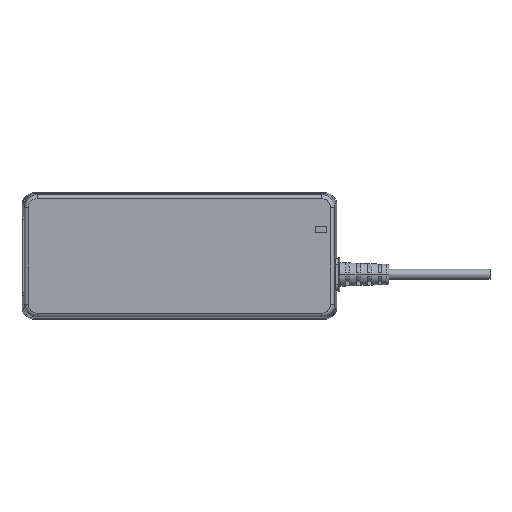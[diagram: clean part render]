
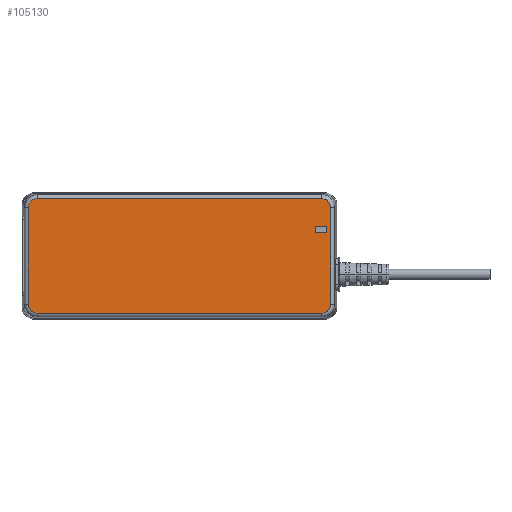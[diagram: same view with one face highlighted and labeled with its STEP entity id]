
A CAD part, top view. The second image highlights one B-rep face of the part: STEP entity #105130.
In plain terms, the highlighted planar face has unit normal (0, 0, 1).
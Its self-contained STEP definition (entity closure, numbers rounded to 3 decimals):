
#100300=CARTESIAN_POINT('',(79.691,91.765,
34.3));
#100310=DIRECTION('',(0.,-1.,0.));
#100320=VECTOR('',#100310,1.);
#100330=LINE('',#100300,#100320);
#100340=CARTESIAN_POINT('',(79.691,91.765,
34.3));
#100350=VERTEX_POINT('',#100340);
#100360=CARTESIAN_POINT('',(79.691,53.452,
34.3));
#100370=VERTEX_POINT('',#100360);
#100380=EDGE_CURVE('',#100350,#100370,#100330,.T.);
#101570=CARTESIAN_POINT('',(76.196,49.956,
34.3));
#101580=VERTEX_POINT('',#101570);
#101610=CARTESIAN_POINT('',(76.196,49.956,
34.3));
#101620=CARTESIAN_POINT('',(76.424,49.956,
34.3));
#101630=CARTESIAN_POINT('',(76.877,50.008,
34.3));
#101640=CARTESIAN_POINT('',(77.523,50.225,
34.3));
#101650=CARTESIAN_POINT('',(78.117,50.562,
34.3));
#101660=CARTESIAN_POINT('',(78.644,51.003,34.3));
#101670=CARTESIAN_POINT('',(79.085,51.53,
34.3));
#101680=CARTESIAN_POINT('',(79.423,52.125,
34.3));
#101690=CARTESIAN_POINT('',(79.639,52.771,
34.3));
#101700=CARTESIAN_POINT('',(79.691,53.223,
34.3));
#101710=CARTESIAN_POINT('',(79.691,53.452,
34.3));
#101720=B_SPLINE_CURVE_WITH_KNOTS('',3,(#101610,#101620,#101630,#101640,
#101650,#101660,#101670,#101680,#101690,#101700,#101710),.UNSPECIFIED.,
.F.,.F.,(4,1,1,1,1,1,1,1,4),(0.,0.125,
0.25,0.375,0.5,0.625,
0.75,0.875,1.),.UNSPECIFIED.);
#101730=EDGE_CURVE('',#101580,#100370,#101720,.T.);
#103080=CARTESIAN_POINT('',(-36.538,49.956,
34.3));
#103090=VERTEX_POINT('',#103080);
#103120=CARTESIAN_POINT('',(76.196,49.956,
34.3));
#103130=DIRECTION('',(-1.,0.,0.));
#103140=VECTOR('',#103130,1.);
#103150=LINE('',#103120,#103140);
#103160=EDGE_CURVE('',#101580,#103090,#103150,.T.);
#104080=CARTESIAN_POINT('',(-40.033,53.452,
34.3));
#104090=VERTEX_POINT('',#104080);
#104120=CARTESIAN_POINT('',(-40.033,53.452,
34.3));
#104130=CARTESIAN_POINT('',(-40.033,53.223,
34.3));
#104140=CARTESIAN_POINT('',(-39.981,52.771,
34.3));
#104150=CARTESIAN_POINT('',(-39.765,52.125,
34.3));
#104160=CARTESIAN_POINT('',(-39.427,51.53,
34.3));
#104170=CARTESIAN_POINT('',(-38.986,51.003,34.3));
#104180=CARTESIAN_POINT('',(-38.46,50.562,
34.3));
#104190=CARTESIAN_POINT('',(-37.865,50.225,
34.3));
#104200=CARTESIAN_POINT('',(-37.219,50.008,
34.3));
#104210=CARTESIAN_POINT('',(-36.766,49.956,
34.3));
#104220=CARTESIAN_POINT('',(-36.538,49.956,
34.3));
#104230=B_SPLINE_CURVE_WITH_KNOTS('',3,(#104120,#104130,#104140,#104150,
#104160,#104170,#104180,#104190,#104200,#104210,#104220),.UNSPECIFIED.,
.F.,.F.,(4,1,1,1,1,1,1,1,4),(0.,0.125,
0.25,0.375,0.5,0.625,
0.75,0.875,1.),.UNSPECIFIED.);
#104240=EDGE_CURVE('',#104090,#103090,#104230,.T.);
#104290=CARTESIAN_POINT('',(-40.271,49.718,
34.3));
#104300=DIRECTION('',(0.,0.,1.));
#104310=DIRECTION('',(1.,0.,0.));
#104320=AXIS2_PLACEMENT_3D('',#104290,#104300,#104310);
#104330=PLANE('',#104320);
#104340=CARTESIAN_POINT('',(-40.033,53.452,
34.3));
#104350=DIRECTION('',(0.,1.,0.));
#104360=VECTOR('',#104350,1.);
#104370=LINE('',#104340,#104360);
#104380=CARTESIAN_POINT('',(-40.038,91.76,
34.3));
#104390=VERTEX_POINT('',#104380);
#104400=EDGE_CURVE('',#104090,#104390,#104370,.T.);
#104410=ORIENTED_EDGE('',*,*,#104400,.F.);
#104420=CARTESIAN_POINT('',(-36.529,91.756,
34.3));
#104430=DIRECTION('',(0.,0.,1.));
#104440=DIRECTION('',(-0.001,1.,0.));
#104450=AXIS2_PLACEMENT_3D('',#104420,#104430,#104440);
#104460=CIRCLE('',#104450,3.508);
#104470=CARTESIAN_POINT('',(-36.531,95.26,
34.3));
#104480=VERTEX_POINT('',#104470);
#104490=EDGE_CURVE('',#104480,#104390,#104460,.T.);
#104500=ORIENTED_EDGE('',*,*,#104490,.T.);
#104510=CARTESIAN_POINT('',(-36.529,95.26,
34.3));
#104520=DIRECTION('',(1.,0.,0.));
#104530=VECTOR('',#104520,1.);
#104540=LINE('',#104510,#104530);
#104550=CARTESIAN_POINT('',(76.196,95.26,
34.3));
#104560=VERTEX_POINT('',#104550);
#104570=EDGE_CURVE('',#104480,#104560,#104540,.T.);
#104580=ORIENTED_EDGE('',*,*,#104570,.F.);
#104590=CARTESIAN_POINT('',(79.691,91.765,
34.3));
#104600=CARTESIAN_POINT('',(79.691,91.993,
34.3));
#104610=CARTESIAN_POINT('',(79.639,92.446,
34.3));
#104620=CARTESIAN_POINT('',(79.423,93.091,
34.3));
#104630=CARTESIAN_POINT('',(79.085,93.686,
34.3));
#104640=CARTESIAN_POINT('',(78.644,94.213,
34.3));
#104650=CARTESIAN_POINT('',(78.117,94.654,
34.3));
#104660=CARTESIAN_POINT('',(77.523,94.992,
34.3));
#104670=CARTESIAN_POINT('',(76.877,95.208,
34.3));
#104680=CARTESIAN_POINT('',(76.424,95.26,
34.3));
#104690=CARTESIAN_POINT('',(76.196,95.26,
34.3));
#104700=B_SPLINE_CURVE_WITH_KNOTS('',3,(#104590,#104600,#104610,#104620,
#104630,#104640,#104650,#104660,#104670,#104680,#104690),.UNSPECIFIED.,
.F.,.F.,(4,1,1,1,1,1,1,1,4),(0.,0.125,
0.25,0.375,0.5,0.625,
0.75,0.875,1.),.UNSPECIFIED.);
#104710=EDGE_CURVE('',#100350,#104560,#104700,.T.);
#104720=ORIENTED_EDGE('',*,*,#104710,.T.);
#104730=ORIENTED_EDGE('',*,*,#100380,.F.);
#104740=ORIENTED_EDGE('',*,*,#101730,.T.);
#104750=ORIENTED_EDGE('',*,*,#103160,.F.);
#104760=ORIENTED_EDGE('',*,*,#104240,.T.);
#104770=EDGE_LOOP('',(#104760,#104750,#104740,#104730,#104720,#104580,
#104500,#104410));
#104780=FACE_OUTER_BOUND('',#104770,.T.);
#104790=CARTESIAN_POINT('',(78.164,81.866,
34.3));
#104800=DIRECTION('',(0.,1.,0.));
#104810=VECTOR('',#104800,1.);
#104820=LINE('',#104790,#104810);
#104830=CARTESIAN_POINT('',(78.164,81.866,
34.3));
#104840=VERTEX_POINT('',#104830);
#104850=CARTESIAN_POINT('',(78.164,84.366,
34.3));
#104860=VERTEX_POINT('',#104850);
#104870=EDGE_CURVE('',#104840,#104860,#104820,.T.);
#104880=ORIENTED_EDGE('',*,*,#104870,.F.);
#104890=CARTESIAN_POINT('',(78.164,84.366,
34.3));
#104900=DIRECTION('',(-1.,0.,0.));
#104910=VECTOR('',#104900,1.);
#104920=LINE('',#104890,#104910);
#104930=CARTESIAN_POINT('',(73.514,84.366,
34.3));
#104940=VERTEX_POINT('',#104930);
#104950=EDGE_CURVE('',#104860,#104940,#104920,.T.);
#104960=ORIENTED_EDGE('',*,*,#104950,.F.);
#104970=CARTESIAN_POINT('',(73.514,84.366,
34.3));
#104980=DIRECTION('',(0.,-1.,0.));
#104990=VECTOR('',#104980,1.);
#105000=LINE('',#104970,#104990);
#105010=CARTESIAN_POINT('',(73.514,81.866,
34.3));
#105020=VERTEX_POINT('',#105010);
#105030=EDGE_CURVE('',#104940,#105020,#105000,.T.);
#105040=ORIENTED_EDGE('',*,*,#105030,.F.);
#105050=CARTESIAN_POINT('',(73.514,81.866,
34.3));
#105060=DIRECTION('',(1.,0.,0.));
#105070=VECTOR('',#105060,1.);
#105080=LINE('',#105050,#105070);
#105090=EDGE_CURVE('',#105020,#104840,#105080,.T.);
#105100=ORIENTED_EDGE('',*,*,#105090,.F.);
#105110=EDGE_LOOP('',(#105100,#105040,#104960,#104880));
#105120=FACE_BOUND('',#105110,.T.);
#105130=ADVANCED_FACE('',(#104780,#105120),#104330,.T.);
